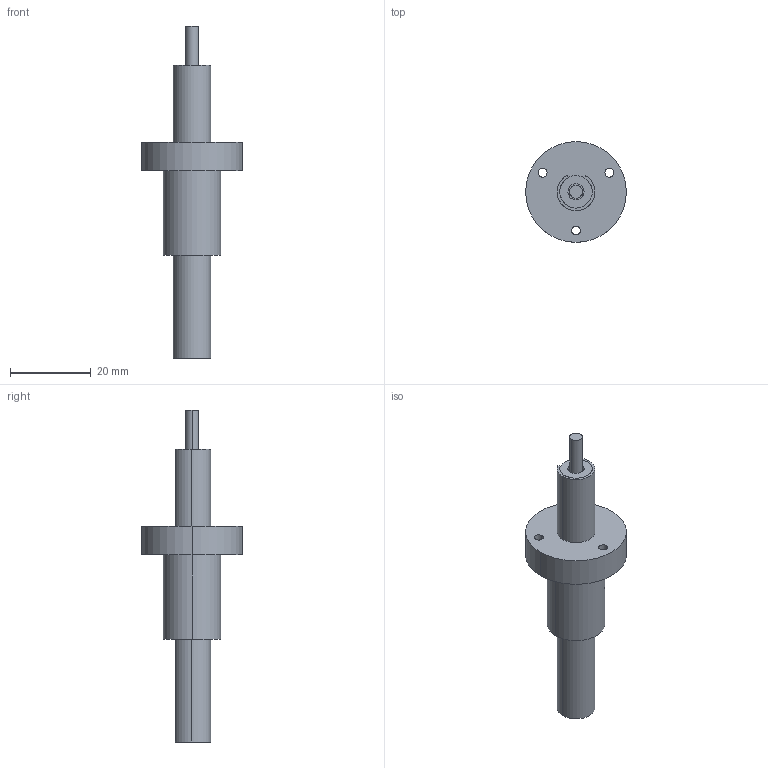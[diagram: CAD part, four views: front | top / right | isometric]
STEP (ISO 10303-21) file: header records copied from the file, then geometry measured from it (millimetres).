
FILE_DESCRIPTION (( 'STEP AP214' ), '1' );
FILE_NAME ('AMETEK-SRZ03KR-A00-0050-01.00-000.STEP', '2022-03-08T08:06:00', ( '' ), ( '' ), 'SwSTEP 2.0', 'SolidWorks 2021', '' );
FILE_SCHEMA (( 'AUTOMOTIVE_DESIGN' ));
Length unit declared in the file: inch
Products named in the file (6): 3000 srail component build up 1; SR3000 Rail; SR3000 Leadscrew; AMETEK-SRZ03KR-A00-0050-01.00-000; 3000 srail component build up 2; SRZ3000
Assembly tree (5 placements, depth 2):
  AMETEK-SRZ03KR-A00-0050-01.00-000
    SR3000 Rail
    3000 srail component build up 1
    3000 srail component build up 2
    SRZ3000
    SR3000 Leadscrew
Bounding box: 24.89 x 24.89 x 82.04 mm (x, y, z)
Volume: 9041.5 mm3; surface area: 9539.4 mm2
Topology: 5 solids, 5 shells, 66 faces, 156 edges, 104 vertices
Faces by surface type: cylinder 46, plane 20
Entity records: 3112 total; most frequent: DIRECTION 396, CARTESIAN_POINT 334, ORIENTED_EDGE 312, AXIS2_PLACEMENT_3D 166, EDGE_CURVE 156, VERTEX_POINT 104, CIRCLE 92, EDGE_LOOP 84
